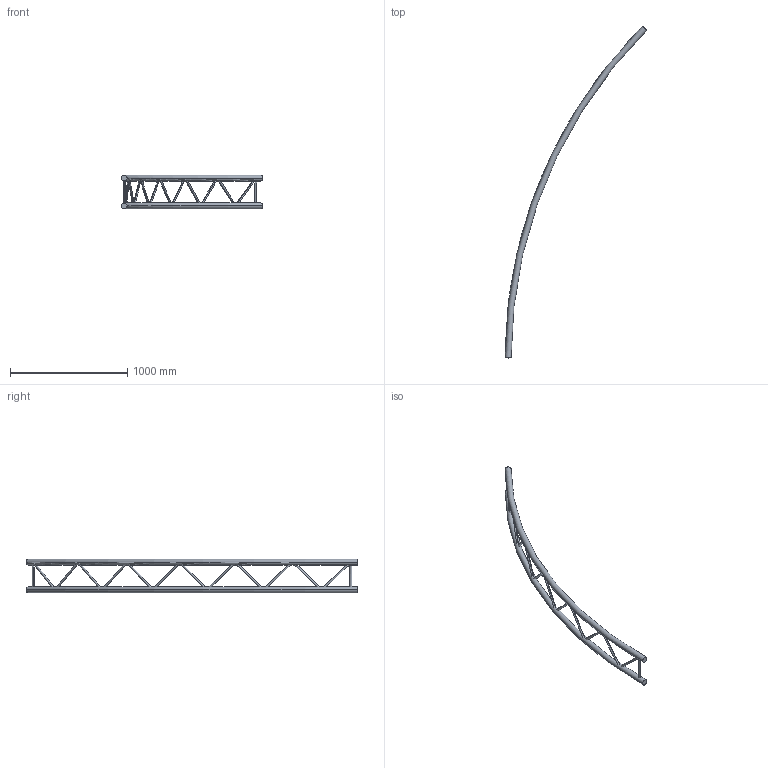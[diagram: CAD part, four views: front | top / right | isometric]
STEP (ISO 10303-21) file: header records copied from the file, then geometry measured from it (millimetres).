
FILE_DESCRIPTION (( 'STEP AP203' ), '1' );
FILE_NAME ('EXC29800V.STEP', '2009-10-26T09:18:47', ( 'CEDIA' ), ( 'CEDIA INDUSTRIE' ), 'SwSTEP 2.0', 'SolidWorks 2009', '' );
FILE_SCHEMA (( 'CONFIG_CONTROL_DESIGN' ));
Length unit declared in the file: millimetre
Products named in the file (1): EXC29800V
Bounding box: 1206.93 x 2828.43 x 287 mm (x, y, z)
Volume: 13085730.6 mm3; surface area: 1192552.2 mm2
Topology: 2 solids, 2 shells, 50 faces, 120 edges, 76 vertices
Faces by surface type: cylinder 28, plane 18, torus 4
Entity records: 2795 total; most frequent: CARTESIAN_POINT 1605, ORIENTED_EDGE 240, DIRECTION 216, EDGE_CURVE 120, AXIS2_PLACEMENT_3D 91, VERTEX_POINT 76, EDGE_LOOP 64, FACE_OUTER_BOUND 50
